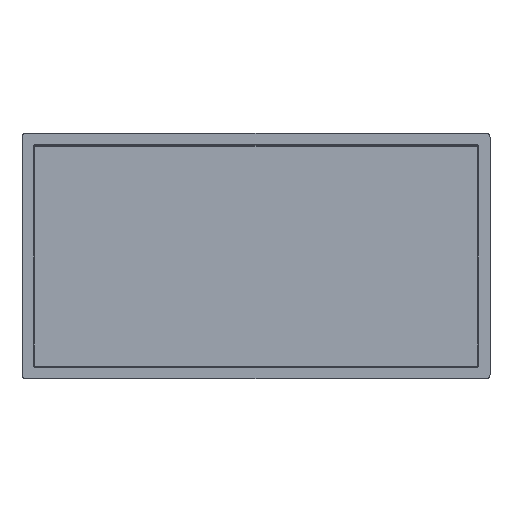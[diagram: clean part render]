
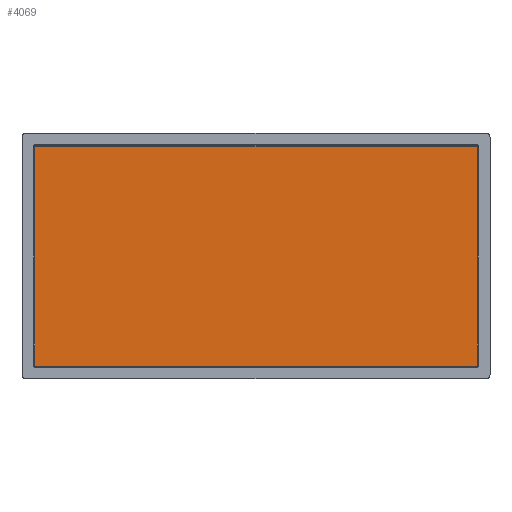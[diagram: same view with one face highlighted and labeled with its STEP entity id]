
A CAD part, top view. The second image highlights one B-rep face of the part: STEP entity #4069.
In plain terms, the highlighted planar face has unit normal (0, 0, 1).
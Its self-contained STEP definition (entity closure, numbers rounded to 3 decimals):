
#266 = VERTEX_POINT ( 'NONE', #1001 ) ;
#305 = DIRECTION ( 'NONE',  ( -1., 0., 0. ) ) ;
#334 = EDGE_CURVE ( 'NONE', #266, #1397, #3673, .T. ) ;
#510 = EDGE_CURVE ( 'NONE', #4685, #266, #4768, .T. ) ;
#529 = VECTOR ( 'NONE', #4402, 1000. ) ;
#818 = LINE ( 'NONE', #4241, #3249 ) ;
#847 = ORIENTED_EDGE ( 'NONE', *, *, #510, .F. ) ;
#1001 = CARTESIAN_POINT ( 'NONE',  ( -298., -148., 0. ) ) ;
#1315 = CARTESIAN_POINT ( 'NONE',  ( -298.293, 148., 0. ) ) ;
#1397 = VERTEX_POINT ( 'NONE', #1605 ) ;
#1458 = ORIENTED_EDGE ( 'NONE', *, *, #2329, .F. ) ;
#1555 = DIRECTION ( 'NONE',  ( 0., -1., 0. ) ) ;
#1605 = CARTESIAN_POINT ( 'NONE',  ( -298., 148., 0. ) ) ;
#1821 = VECTOR ( 'NONE', #3523, 1000. ) ;
#1872 = ORIENTED_EDGE ( 'NONE', *, *, #3467, .F. ) ;
#1943 = VERTEX_POINT ( 'NONE', #2072 ) ;
#2000 = ORIENTED_EDGE ( 'NONE', *, *, #334, .F. ) ;
#2072 = CARTESIAN_POINT ( 'NONE',  ( 298., 148., 0. ) ) ;
#2088 = CARTESIAN_POINT ( 'NONE',  ( 0., 0., 0. ) ) ;
#2329 = EDGE_CURVE ( 'NONE', #1397, #1943, #3157, .T. ) ;
#2554 = CARTESIAN_POINT ( 'NONE',  ( 298.293, -148., 0. ) ) ;
#3157 = LINE ( 'NONE', #1315, #1821 ) ;
#3249 = VECTOR ( 'NONE', #1555, 1000. ) ;
#3456 = CARTESIAN_POINT ( 'NONE',  ( 298., -148., 0. ) ) ;
#3467 = EDGE_CURVE ( 'NONE', #1943, #4685, #818, .T. ) ;
#3523 = DIRECTION ( 'NONE',  ( 1., 0., 0. ) ) ;
#3595 = DIRECTION ( 'NONE',  ( 0., 0., 1. ) ) ;
#3673 = LINE ( 'NONE', #3723, #529 ) ;
#3723 = CARTESIAN_POINT ( 'NONE',  ( -298., -148.293, 0. ) ) ;
#3796 = AXIS2_PLACEMENT_3D ( 'NONE', #2088, #3595, #4798 ) ;
#4009 = PLANE ( 'NONE',  #3796 ) ;
#4069 = ADVANCED_FACE ( 'NONE', ( #4431 ), #4009, .T. ) ;
#4241 = CARTESIAN_POINT ( 'NONE',  ( 298., 148.293, 0. ) ) ;
#4402 = DIRECTION ( 'NONE',  ( 0., 1., 0. ) ) ;
#4431 = FACE_OUTER_BOUND ( 'NONE', #4726, .T. ) ;
#4484 = VECTOR ( 'NONE', #305, 1000. ) ;
#4685 = VERTEX_POINT ( 'NONE', #3456 ) ;
#4726 = EDGE_LOOP ( 'NONE', ( #1872, #1458, #2000, #847 ) ) ;
#4768 = LINE ( 'NONE', #2554, #4484 ) ;
#4798 = DIRECTION ( 'NONE',  ( 1., 0., 0. ) ) ;
